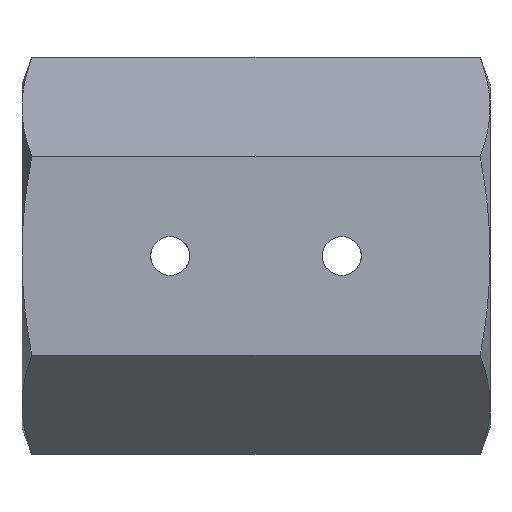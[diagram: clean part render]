
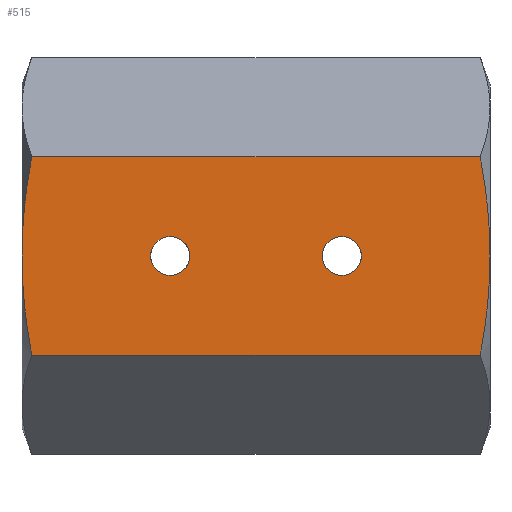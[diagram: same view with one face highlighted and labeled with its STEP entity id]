
A CAD part, front view. The second image highlights one B-rep face of the part: STEP entity #515.
In plain terms, the highlighted planar face has unit normal (0, -1, 0).
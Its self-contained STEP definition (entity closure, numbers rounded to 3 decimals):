
#31=FACE_BOUND('',#115,.T.);
#32=FACE_BOUND('',#116,.T.);
#43=(
BOUNDED_CURVE()
B_SPLINE_CURVE(2,(#941,#942,#943),.UNSPECIFIED.,.F.,.F.)
B_SPLINE_CURVE_WITH_KNOTS((3,3),(0.133,0.789),
 .UNSPECIFIED.)
CURVE()
GEOMETRIC_REPRESENTATION_ITEM()
RATIONAL_B_SPLINE_CURVE((1.016,1.046,1.))
REPRESENTATION_ITEM('')
);
#44=(
BOUNDED_CURVE()
B_SPLINE_CURVE(2,(#947,#948,#949),.UNSPECIFIED.,.F.,.F.)
B_SPLINE_CURVE_WITH_KNOTS((3,3),(0.789,1.445),
 .UNSPECIFIED.)
CURVE()
GEOMETRIC_REPRESENTATION_ITEM()
RATIONAL_B_SPLINE_CURVE((1.,1.046,1.016))
REPRESENTATION_ITEM('')
);
#45=(
BOUNDED_CURVE()
B_SPLINE_CURVE(2,(#951,#952,#953),.UNSPECIFIED.,.F.,.F.)
B_SPLINE_CURVE_WITH_KNOTS((3,3),(0.133,0.789),
 .UNSPECIFIED.)
CURVE()
GEOMETRIC_REPRESENTATION_ITEM()
RATIONAL_B_SPLINE_CURVE((1.016,1.046,1.))
REPRESENTATION_ITEM('')
);
#46=(
BOUNDED_CURVE()
B_SPLINE_CURVE(2,(#956,#957,#958),.UNSPECIFIED.,.F.,.F.)
B_SPLINE_CURVE_WITH_KNOTS((3,3),(0.789,1.445),
 .UNSPECIFIED.)
CURVE()
GEOMETRIC_REPRESENTATION_ITEM()
RATIONAL_B_SPLINE_CURVE((1.,1.046,1.016))
REPRESENTATION_ITEM('')
);
#67=PLANE('',#575);
#81=FACE_OUTER_BOUND('',#114,.T.);
#114=EDGE_LOOP('',(#370,#371,#372,#373,#374,#375));
#115=EDGE_LOOP('',(#376));
#116=EDGE_LOOP('',(#377));
#156=CIRCLE('',#570,1.25);
#158=CIRCLE('',#574,1.25);
#187=LINE('',#945,#204);
#188=LINE('',#955,#205);
#204=VECTOR('',#652,10.);
#205=VECTOR('',#653,10.);
#228=VERTEX_POINT('',#813);
#234=VERTEX_POINT('',#897);
#237=VERTEX_POINT('',#939);
#238=VERTEX_POINT('',#940);
#239=VERTEX_POINT('',#944);
#240=VERTEX_POINT('',#946);
#241=VERTEX_POINT('',#950);
#242=VERTEX_POINT('',#954);
#277=EDGE_CURVE('',#228,#228,#156,.T.);
#285=EDGE_CURVE('',#234,#234,#158,.T.);
#289=EDGE_CURVE('',#237,#238,#43,.T.);
#290=EDGE_CURVE('',#239,#237,#187,.T.);
#291=EDGE_CURVE('',#240,#239,#44,.T.);
#292=EDGE_CURVE('',#241,#240,#45,.T.);
#293=EDGE_CURVE('',#241,#242,#188,.T.);
#294=EDGE_CURVE('',#238,#242,#46,.T.);
#370=ORIENTED_EDGE('',*,*,#289,.F.);
#371=ORIENTED_EDGE('',*,*,#290,.F.);
#372=ORIENTED_EDGE('',*,*,#291,.F.);
#373=ORIENTED_EDGE('',*,*,#292,.F.);
#374=ORIENTED_EDGE('',*,*,#293,.T.);
#375=ORIENTED_EDGE('',*,*,#294,.F.);
#376=ORIENTED_EDGE('',*,*,#277,.T.);
#377=ORIENTED_EDGE('',*,*,#285,.T.);
#515=ADVANCED_FACE('',(#81,#31,#32),#67,.F.);
#570=AXIS2_PLACEMENT_3D('',#814,#637,#638);
#574=AXIS2_PLACEMENT_3D('',#898,#647,#648);
#575=AXIS2_PLACEMENT_3D('',#938,#650,#651);
#637=DIRECTION('center_axis',(0.,1.,0.));
#638=DIRECTION('ref_axis',(1.,0.,0.));
#647=DIRECTION('center_axis',(0.,1.,0.));
#648=DIRECTION('ref_axis',(1.,0.,0.));
#650=DIRECTION('center_axis',(0.,1.,0.));
#651=DIRECTION('ref_axis',(0.,0.,-1.));
#652=DIRECTION('',(-1.,0.,0.));
#653=DIRECTION('',(-1.,0.,0.));
#813=CARTESIAN_POINT('',(19.25,-11.,0.));
#814=CARTESIAN_POINT('Origin',(20.5,-11.,0.));
#897=CARTESIAN_POINT('',(8.25,-11.,0.));
#898=CARTESIAN_POINT('Origin',(9.5,-11.,0.));
#938=CARTESIAN_POINT('Origin',(30.,-11.,6.351));
#939=CARTESIAN_POINT('',(0.619,-11.,-6.351));
#940=CARTESIAN_POINT('',(0.,-11.,0.));
#941=CARTESIAN_POINT('Ctrl Pts',(0.619,-11.,-6.351));
#942=CARTESIAN_POINT('Ctrl Pts',(0.,-11.,-2.947));
#943=CARTESIAN_POINT('Ctrl Pts',(0.,-11.,0.));
#944=CARTESIAN_POINT('',(29.381,-11.,-6.351));
#945=CARTESIAN_POINT('',(30.,-11.,-6.351));
#946=CARTESIAN_POINT('',(30.,-11.,0.));
#947=CARTESIAN_POINT('Ctrl Pts',(30.,-11.,0.));
#948=CARTESIAN_POINT('Ctrl Pts',(30.,-11.,-2.947));
#949=CARTESIAN_POINT('Ctrl Pts',(29.381,-11.,-6.351));
#950=CARTESIAN_POINT('',(29.381,-11.,6.351));
#951=CARTESIAN_POINT('Ctrl Pts',(29.381,-11.,6.351));
#952=CARTESIAN_POINT('Ctrl Pts',(30.,-11.,2.947));
#953=CARTESIAN_POINT('Ctrl Pts',(30.,-11.,0.));
#954=CARTESIAN_POINT('',(0.619,-11.,6.351));
#955=CARTESIAN_POINT('',(30.,-11.,6.351));
#956=CARTESIAN_POINT('Ctrl Pts',(0.,-11.,0.));
#957=CARTESIAN_POINT('Ctrl Pts',(0.,-11.,2.947));
#958=CARTESIAN_POINT('Ctrl Pts',(0.619,-11.,6.351));
